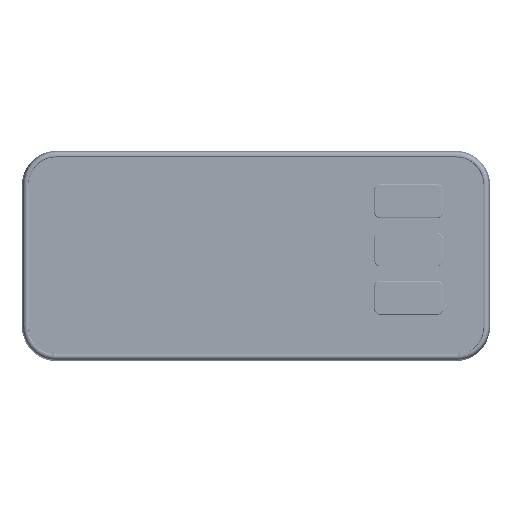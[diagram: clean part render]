
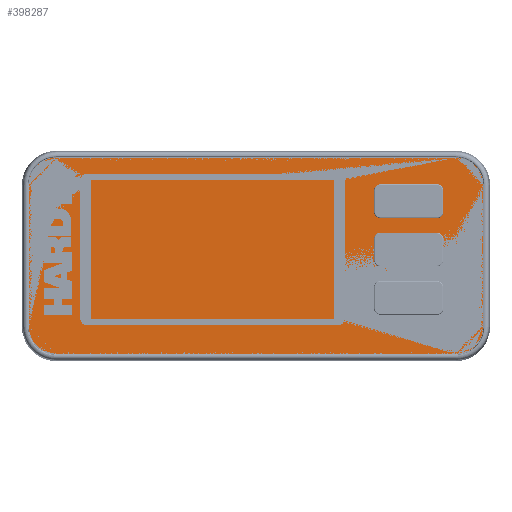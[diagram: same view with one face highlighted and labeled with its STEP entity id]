
A CAD part, top view. The second image highlights one B-rep face of the part: STEP entity #398287.
In plain terms, the highlighted planar face has unit normal (0, 0, 1).
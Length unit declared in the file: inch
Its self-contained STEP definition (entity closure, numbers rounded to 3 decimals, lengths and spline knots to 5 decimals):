
#15054 = CIRCLE ( 'NONE', #59229, 0.422 ) ;
#26612 = CARTESIAN_POINT ( 'NONE',  ( -3.1, 1.1, 0.006 ) ) ;
#26989 = EDGE_CURVE ( 'NONE', #244195, #63181, #392265, .T. ) ;
#47758 = CIRCLE ( 'NONE', #492363, 0.422 ) ;
#48816 = CARTESIAN_POINT ( 'NONE',  ( -3.522, 1.1, 0.006 ) ) ;
#53520 = CARTESIAN_POINT ( 'NONE',  ( 3.522, 1.1, 0.006 ) ) ;
#59229 = AXIS2_PLACEMENT_3D ( 'NONE', #406130, #246033, #141685 ) ;
#63181 = VERTEX_POINT ( 'NONE', #504490 ) ;
#89748 = CARTESIAN_POINT ( 'NONE',  ( -3.1, 1.522, 0.006 ) ) ;
#93760 = EDGE_CURVE ( 'NONE', #206085, #497555, #637879, .T. ) ;
#106383 = DIRECTION ( 'NONE',  ( 1., 0., 0. ) ) ;
#106550 = DIRECTION ( 'NONE',  ( 1., 0., 0. ) ) ;
#138005 = DIRECTION ( 'NONE',  ( 1., 0., 0. ) ) ;
#141685 = DIRECTION ( 'NONE',  ( 1., 0., 0. ) ) ;
#150485 = ORIENTED_EDGE ( 'NONE', *, *, #680943, .T. ) ;
#152084 = EDGE_CURVE ( 'NONE', #63181, #451296, #205466, .T. ) ;
#186710 = DIRECTION ( 'NONE',  ( 1., 0., 0. ) ) ;
#190136 = DIRECTION ( 'NONE',  ( 0., 0., 1. ) ) ;
#205466 = LINE ( 'NONE', #365600, #562267 ) ;
#206085 = VERTEX_POINT ( 'NONE', #336334 ) ;
#218874 = VERTEX_POINT ( 'NONE', #48816 ) ;
#238601 = DIRECTION ( 'NONE',  ( 0., -1., 0. ) ) ;
#242357 = VECTOR ( 'NONE', #238601, 39.37008 ) ;
#244195 = VERTEX_POINT ( 'NONE', #656410 ) ;
#245798 = CARTESIAN_POINT ( 'NONE',  ( -3.1, -1.1, 0.006 ) ) ;
#246033 = DIRECTION ( 'NONE',  ( 0., 0., 1. ) ) ;
#250130 = AXIS2_PLACEMENT_3D ( 'NONE', #632165, #315480, #106550 ) ;
#263080 = FACE_OUTER_BOUND ( 'NONE', #325220, .T. ) ;
#273549 = ORIENTED_EDGE ( 'NONE', *, *, #467835, .T. ) ;
#298158 = VERTEX_POINT ( 'NONE', #53520 ) ;
#306692 = ORIENTED_EDGE ( 'NONE', *, *, #345680, .T. ) ;
#314319 = AXIS2_PLACEMENT_3D ( 'NONE', #245798, #190136, #138005 ) ;
#315480 = DIRECTION ( 'NONE',  ( 0., 0., 1. ) ) ;
#317971 = CARTESIAN_POINT ( 'NONE',  ( 3.522, -1.1, 0.006 ) ) ;
#325220 = EDGE_LOOP ( 'NONE', ( #561743, #273549, #606382, #681299, #393167, #150485, #306692, #675264 ) ) ;
#336080 = LINE ( 'NONE', #443811, #428933 ) ;
#336334 = CARTESIAN_POINT ( 'NONE',  ( 3.1, 1.522, 0.006 ) ) ;
#345680 = EDGE_CURVE ( 'NONE', #298158, #206085, #15054, .T. ) ;
#357337 = EDGE_CURVE ( 'NONE', #497555, #218874, #47758, .T. ) ;
#365600 = CARTESIAN_POINT ( 'NONE',  ( -3.1, -1.522, 0.006 ) ) ;
#370939 = PLANE ( 'NONE',  #406679 ) ;
#383631 = CARTESIAN_POINT ( 'NONE',  ( -3.1, 1.522, 0.006 ) ) ;
#385041 = LINE ( 'NONE', #503085, #242357 ) ;
#392265 = CIRCLE ( 'NONE', #314319, 0.422 ) ;
#393167 = ORIENTED_EDGE ( 'NONE', *, *, #679684, .T. ) ;
#398287 = ADVANCED_FACE ( 'NONE', ( #263080 ), #370939, .T. ) ;
#406130 = CARTESIAN_POINT ( 'NONE',  ( 3.1, 1.1, 0.006 ) ) ;
#406679 = AXIS2_PLACEMENT_3D ( 'NONE', #583195, #586619, #106383 ) ;
#414757 = VECTOR ( 'NONE', #422138, 39.37008 ) ;
#422138 = DIRECTION ( 'NONE',  ( -1., 0., 0. ) ) ;
#428933 = VECTOR ( 'NONE', #565480, 39.37008 ) ;
#443811 = CARTESIAN_POINT ( 'NONE',  ( 3.522, 1.1, 0.006 ) ) ;
#451296 = VERTEX_POINT ( 'NONE', #502512 ) ;
#467835 = EDGE_CURVE ( 'NONE', #218874, #244195, #385041, .T. ) ;
#492363 = AXIS2_PLACEMENT_3D ( 'NONE', #26612, #607893, #186710 ) ;
#497555 = VERTEX_POINT ( 'NONE', #89748 ) ;
#502512 = CARTESIAN_POINT ( 'NONE',  ( 3.1, -1.522, 0.006 ) ) ;
#503085 = CARTESIAN_POINT ( 'NONE',  ( -3.522, 1.1, 0.006 ) ) ;
#504490 = CARTESIAN_POINT ( 'NONE',  ( -3.1, -1.522, 0.006 ) ) ;
#540892 = VERTEX_POINT ( 'NONE', #317971 ) ;
#561743 = ORIENTED_EDGE ( 'NONE', *, *, #357337, .T. ) ;
#562267 = VECTOR ( 'NONE', #577842, 39.37008 ) ;
#565480 = DIRECTION ( 'NONE',  ( 0., 1., 0. ) ) ;
#577842 = DIRECTION ( 'NONE',  ( 1., 0., 0. ) ) ;
#583195 = CARTESIAN_POINT ( 'NONE',  ( -3.1, 1.1, 0.006 ) ) ;
#586619 = DIRECTION ( 'NONE',  ( 0., 0., 1. ) ) ;
#606382 = ORIENTED_EDGE ( 'NONE', *, *, #26989, .T. ) ;
#607893 = DIRECTION ( 'NONE',  ( 0., 0., 1. ) ) ;
#632165 = CARTESIAN_POINT ( 'NONE',  ( 3.1, -1.1, 0.006 ) ) ;
#637879 = LINE ( 'NONE', #383631, #414757 ) ;
#650118 = CIRCLE ( 'NONE', #250130, 0.422 ) ;
#656410 = CARTESIAN_POINT ( 'NONE',  ( -3.522, -1.1, 0.006 ) ) ;
#675264 = ORIENTED_EDGE ( 'NONE', *, *, #93760, .T. ) ;
#679684 = EDGE_CURVE ( 'NONE', #451296, #540892, #650118, .T. ) ;
#680943 = EDGE_CURVE ( 'NONE', #540892, #298158, #336080, .T. ) ;
#681299 = ORIENTED_EDGE ( 'NONE', *, *, #152084, .T. ) ;
